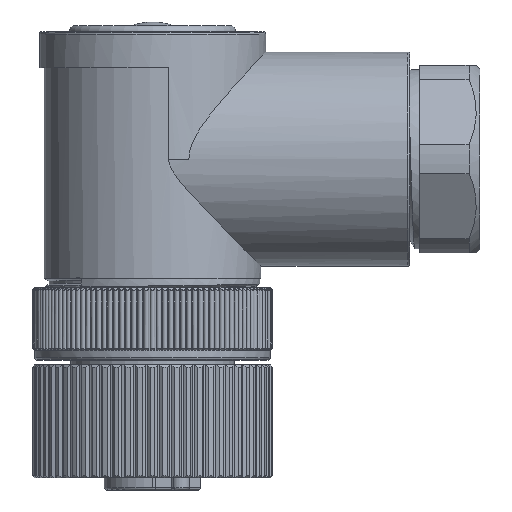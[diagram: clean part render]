
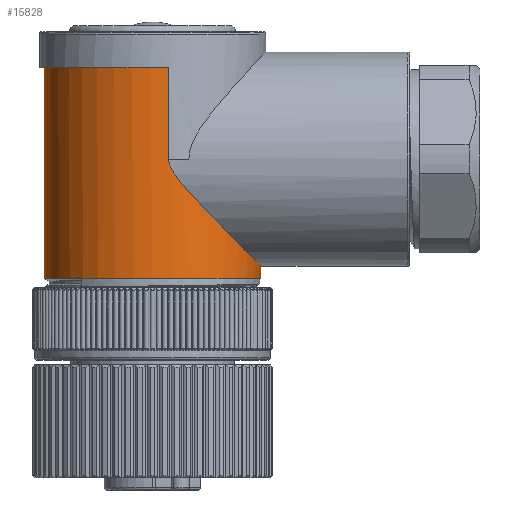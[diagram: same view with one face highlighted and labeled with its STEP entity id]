
A CAD part, front view. The second image highlights one B-rep face of the part: STEP entity #15828.
In plain terms, the highlighted cylindrical face has radius 9 mm (diameter 18 mm), a partial arc.
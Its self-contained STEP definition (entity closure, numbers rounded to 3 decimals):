
#1740=CARTESIAN_POINT('',(9.,0.,6.));
#1741=CARTESIAN_POINT('',(9.,-0.089,
6.));
#1742=CARTESIAN_POINT('',(8.997,-0.267,
6.003));
#1743=CARTESIAN_POINT('',(8.985,-0.534,
6.015));
#1744=CARTESIAN_POINT('',(8.966,-0.801,
6.035));
#1745=CARTESIAN_POINT('',(8.938,-1.068,6.063));
#1746=CARTESIAN_POINT('',(8.902,-1.335,6.099));
#1747=CARTESIAN_POINT('',(8.858,-1.603,6.144));
#1748=CARTESIAN_POINT('',(8.805,-1.871,6.197));
#1749=CARTESIAN_POINT('',(8.744,-2.139,6.259));
#1750=CARTESIAN_POINT('',(8.674,-2.407,6.33));
#1751=CARTESIAN_POINT('',(8.595,-2.676,6.41));
#1752=CARTESIAN_POINT('',(8.506,-2.944,6.5));
#1753=CARTESIAN_POINT('',(8.409,-3.213,6.599));
#1754=CARTESIAN_POINT('',(8.301,-3.482,6.708));
#1755=CARTESIAN_POINT('',(8.183,-3.75,6.827));
#1756=CARTESIAN_POINT('',(8.055,-4.018,6.957));
#1757=CARTESIAN_POINT('',(7.917,-4.285,7.097));
#1758=CARTESIAN_POINT('',(7.767,-4.551,7.249));
#1759=CARTESIAN_POINT('',(7.606,-4.815,7.413));
#1760=CARTESIAN_POINT('',(7.433,-5.078,7.588));
#1761=CARTESIAN_POINT('',(7.248,-5.338,7.776));
#1762=CARTESIAN_POINT('',(7.052,-5.596,7.977));
#1763=CARTESIAN_POINT('',(6.842,-5.85,8.19));
#1764=CARTESIAN_POINT('',(6.62,-6.1,8.416));
#1765=CARTESIAN_POINT('',(6.386,-6.345,8.656));
#1766=CARTESIAN_POINT('',(6.138,-6.585,8.909));
#1767=CARTESIAN_POINT('',(5.878,-6.818,9.176));
#1768=CARTESIAN_POINT('',(5.605,-7.045,9.457));
#1769=CARTESIAN_POINT('',(5.319,-7.263,9.751));
#1770=CARTESIAN_POINT('',(5.022,-7.472,10.06));
#1771=CARTESIAN_POINT('',(4.712,-7.671,10.381));
#1772=CARTESIAN_POINT('',(4.393,-7.858,10.716));
#1773=CARTESIAN_POINT('',(4.063,-8.034,11.063));
#1774=CARTESIAN_POINT('',(3.727,-8.195,11.42));
#1775=CARTESIAN_POINT('',(3.384,-8.342,11.791));
#1776=CARTESIAN_POINT('',(3.048,-8.471,12.16));
#1777=CARTESIAN_POINT('',(2.758,-8.568,12.487));
#1778=CARTESIAN_POINT('',(2.508,-8.644,12.776));
#1779=CARTESIAN_POINT('',(2.292,-8.704,13.037));
#1780=CARTESIAN_POINT('',(2.107,-8.751,13.27));
#1781=CARTESIAN_POINT('',(1.949,-8.787,13.481));
#1782=CARTESIAN_POINT('',(1.816,-8.815,13.67));
#1783=CARTESIAN_POINT('',(1.705,-8.837,13.84));
#1784=CARTESIAN_POINT('',(1.615,-8.854,13.993));
#1785=CARTESIAN_POINT('',(1.542,-8.867,14.13));
#1786=CARTESIAN_POINT('',(1.485,-8.877,14.252));
#1787=CARTESIAN_POINT('',(1.441,-8.884,14.362));
#1788=CARTESIAN_POINT('',(1.406,-8.889,14.464));
#1789=CARTESIAN_POINT('',(1.38,-8.894,14.558));
#1790=CARTESIAN_POINT('',(1.361,-8.897,14.647));
#1791=CARTESIAN_POINT('',(1.347,-8.899,14.733));
#1792=CARTESIAN_POINT('',(1.34,-8.9,14.817));
#1793=CARTESIAN_POINT('',(1.338,-8.9,14.872));
#1794=CARTESIAN_POINT('',(1.338,-8.9,14.9));
#2035=DIRECTION('',(0.,0.,-1.));
#2036=VECTOR('',#2035,1.);
#2037=CARTESIAN_POINT('',(9.,0.,6.));
#2038=LINE('',#2037,#2036);
#2039=DIRECTION('',(0.,0.,-1.));
#2040=VECTOR('',#2039,17.5);
#2041=CARTESIAN_POINT('',(-9.,0.,22.5));
#2042=LINE('',#2041,#2040);
#2043=DIRECTION('',(0.,0.,1.));
#2044=VECTOR('',#2043,7.581);
#2045=CARTESIAN_POINT('',(1.338,-8.9,14.919));
#2046=LINE('',#2045,#2044);
#2047=CARTESIAN_POINT('',(1.338,-8.9,14.9));
#2048=CARTESIAN_POINT('',(1.338,-8.9,14.906));
#2049=CARTESIAN_POINT('',(1.338,-8.9,14.913));
#2050=CARTESIAN_POINT('',(1.338,-8.9,14.919));
#2057=CARTESIAN_POINT('',(0.,0.,5.));
#2058=DIRECTION('',(0.,0.,-1.));
#2059=DIRECTION('',(1.,0.,0.));
#2060=AXIS2_PLACEMENT_3D('',#2057,#2058,#2059);
#7996=CARTESIAN_POINT('',(0.,0.,22.5));
#7997=DIRECTION('',(0.,0.,1.));
#7998=DIRECTION('',(-1.,0.,0.));
#7999=AXIS2_PLACEMENT_3D('',#7996,#7997,#7998);
#12446=CARTESIAN_POINT('',(1.338,-8.9,22.5));
#12448=VERTEX_POINT('',#12446);
#12451=CARTESIAN_POINT('',(1.338,-8.9,
14.9));
#12453=VERTEX_POINT('',#12451);
#12723=CARTESIAN_POINT('',(9.,0.,6.));
#12725=VERTEX_POINT('',#12723);
#12750=CARTESIAN_POINT('',(-9.,0.,22.5));
#12751=CARTESIAN_POINT('',(-9.,0.,5.));
#12752=VERTEX_POINT('',#12750);
#12753=VERTEX_POINT('',#12751);
#12754=CARTESIAN_POINT('',(9.,0.,5.));
#12755=VERTEX_POINT('',#12754);
#12758=CARTESIAN_POINT('',(1.338,-8.9,
14.919));
#12759=VERTEX_POINT('',#12758);
#15812=CARTESIAN_POINT('',(0.,0.,4.5));
#15813=DIRECTION('',(0.,0.,-1.));
#15814=DIRECTION('',(-1.,0.,0.));
#15815=AXIS2_PLACEMENT_3D('',#15812,#15813,#15814);
#15816=CYLINDRICAL_SURFACE('',#15815,9.);
#15817=ORIENTED_EDGE('',*,*,#15640,.F.);
#15818=ORIENTED_EDGE('',*,*,#15682,.T.);
#15820=ORIENTED_EDGE('',*,*,#15819,.T.);
#15821=ORIENTED_EDGE('',*,*,#15678,.F.);
#15823=ORIENTED_EDGE('',*,*,#15822,.T.);
#15824=ORIENTED_EDGE('',*,*,#15801,.F.);
#15825=ORIENTED_EDGE('',*,*,#15807,.F.);
#15826=EDGE_LOOP('',(#15817,#15818,#15820,#15821,#15823,#15824,#15825));
#15827=FACE_OUTER_BOUND('',#15826,.F.);
#15828=ADVANCED_FACE('',(#15827),#15816,.T.);
#1795=B_SPLINE_CURVE_WITH_KNOTS('',3,(#1740,#1741,#1742,#1743,#1744,#1745,#1746,
#1747,#1748,#1749,#1750,#1751,#1752,#1753,#1754,#1755,#1756,#1757,#1758,#1759,
#1760,#1761,#1762,#1763,#1764,#1765,#1766,#1767,#1768,#1769,#1770,#1771,#1772,
#1773,#1774,#1775,#1776,#1777,#1778,#1779,#1780,#1781,#1782,#1783,#1784,#1785,
#1786,#1787,#1788,#1789,#1790,#1791,#1792,#1793,#1794),.UNSPECIFIED.,.F.,.F.,(4,
1,1,1,1,1,1,1,1,1,1,1,1,1,1,1,1,1,1,1,1,1,1,1,1,1,1,1,1,1,1,1,1,1,1,1,1,1,1,1,1,
1,1,1,1,1,1,1,1,1,1,1,4),(0.,0.019,0.038,
0.058,0.077,0.096,0.115,
0.135,0.154,0.173,0.192,
0.212,0.231,0.25,0.269,0.288,
0.308,0.327,0.346,0.365,
0.385,0.404,0.423,0.442,
0.462,0.481,0.5,0.519,0.538,
0.558,0.577,0.596,0.615,
0.635,0.654,0.673,0.692,
0.712,0.731,0.75,0.769,0.788,
0.808,0.827,0.846,0.865,
0.885,0.904,0.923,0.942,
0.962,0.981,1.),.UNSPECIFIED.);
#2051=B_SPLINE_CURVE_WITH_KNOTS('',3,(#2047,#2048,#2049,#2050),.UNSPECIFIED.,
.F.,.F.,(4,4),(0.,1.),.UNSPECIFIED.);
#2061=CIRCLE('',#2060,9.);
#8000=CIRCLE('',#7999,9.);
#15640=EDGE_CURVE('',#12725,#12453,#1795,.T.);
#15678=EDGE_CURVE('',#12752,#12753,#2042,.T.);
#15682=EDGE_CURVE('',#12725,#12755,#2038,.T.);
#15801=EDGE_CURVE('',#12759,#12448,#2046,.T.);
#15807=EDGE_CURVE('',#12453,#12759,#2051,.T.);
#15819=EDGE_CURVE('',#12755,#12753,#2061,.T.);
#15822=EDGE_CURVE('',#12752,#12448,#8000,.T.);
